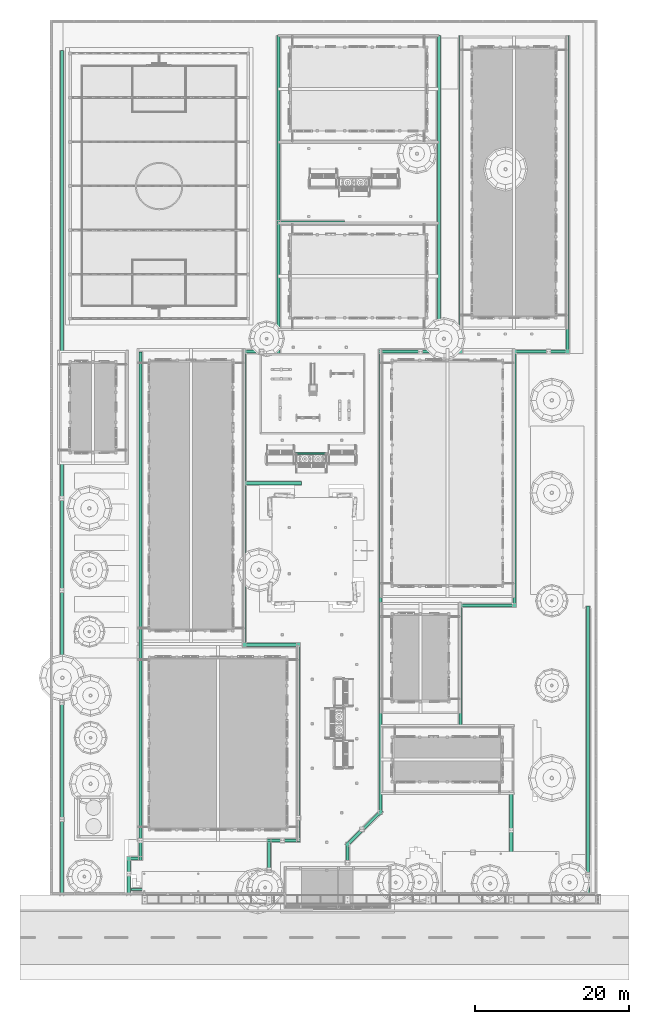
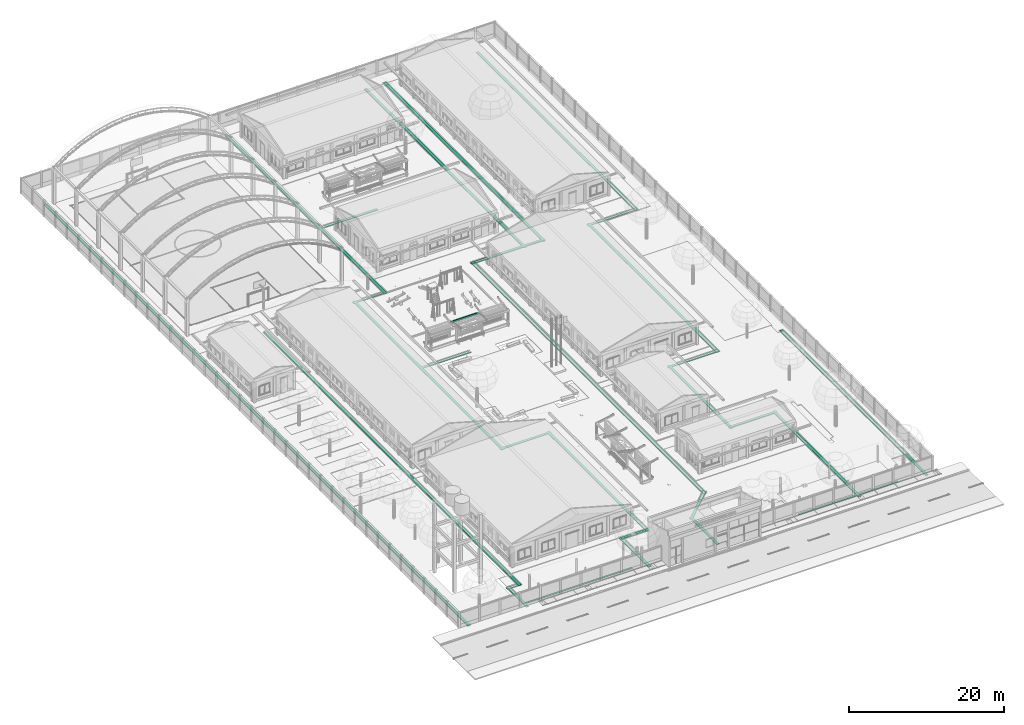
# One storey, part 106 of 177: 2 pipe segments.
"""IFC4 building model written with IfcOpenShell, lengths in metres."""

from ifc_helpers import new_model, si_unit, origin, origin_with_axes, place, context, subcontext, project, spatial, triangles, element, save


model = new_model("IFC4")

# Units and contexts
model_context = context("Model", 3, precision=1e-05, world=origin_with_axes())
body_context = subcontext(model_context, "Body", "Model", "MODEL_VIEW")
ifc_project = project(units=[si_unit("LENGTHUNIT", "METRE"), si_unit("AREAUNIT", "SQUARE_METRE"), si_unit("VOLUMEUNIT", "CUBIC_METRE"), si_unit("PLANEANGLEUNIT", "RADIAN")], contexts=[model_context])

# Site, building, storey
site_placement = place(None, origin_with_axes())
site = spatial("IfcSite", under=ifc_project, at=site_placement, Name="Predio Los Mangos - Morales, San Martín", CompositionType="ELEMENT")
building_placement = place(site_placement, origin())
building = spatial("IfcBuilding", under=site, at=building_placement, Name="Hogar de Refugio Temporal", CompositionType="ELEMENT")
storey_placement = place(building_placement, origin())
storey = spatial("IfcBuildingStorey", under=building, at=storey_placement, Name="NIVEL 1 (NPT +0.00)", CompositionType="ELEMENT", Elevation=0.0)

# Pipe segments
pipe_segment_1_placement = place(storey_placement, origin())
element("IfcPipeSegment", 1, at=pipe_segment_1_placement, inside=storey, Name="oc01_canaleta", ObjectType="Canaleta", PredefinedType="GUTTER", context=body_context, shape_type="Tessellation", body=[
    triangles([(36.905, 75.18, 2.49), (32.695, 75.18, 2.49), (32.695, 75.0, 2.49), (36.905, 75.0, 2.49), (36.905, 75.18, 2.71), (32.695, 75.18, 2.71), (32.695, 75.0, 2.71), (36.905, 75.0, 2.71)], [[1, 4, 3], [1, 3, 2], [5, 6, 7], [5, 7, 8], [1, 2, 6], [1, 6, 5], [2, 3, 7], [2, 7, 6], [3, 4, 8], [3, 8, 7], [4, 1, 5], [4, 5, 8]]),
])
pipe_segment_2_placement = place(storey_placement, origin())
element("IfcPipeSegment", 2, at=pipe_segment_2_placement, inside=storey, Name="cunetas_fondo", ObjectType="Cuneta de concreto b=0.40", PredefinedType="GUTTER", context=body_context, shape_type="Tessellation", body=[
    triangles([(70.499, 55.35, -0.02), (70.499, 17.54, -0.02), (70.899, 17.54, -0.02), (70.899, 55.35, -0.02), (70.499, 55.35, 0.062), (70.499, 17.54, 0.062), (70.899, 17.54, 0.062), (70.899, 55.35, 0.062), (67.855, 129.32, -0.02), (67.855, 88.022, -0.02), (68.255, 88.022, -0.02), (68.255, 129.32, -0.02), (67.855, 129.32, 0.062), (67.855, 88.022, 0.062), (68.255, 88.022, 0.062), (68.255, 129.32, 0.062), (68.355, 88.522, -0.02), (60.848, 88.522, -0.02), (60.848, 88.122, -0.02), (68.355, 88.122, -0.02), (68.355, 88.522, 0.062), (60.848, 88.522, 0.062), (60.848, 88.122, 0.062), (68.355, 88.122, 0.062), (60.948, 88.622, -0.02), (60.948, 55.099, -0.02), (61.348, 55.099, -0.02), (61.348, 88.622, -0.02), (60.948, 88.622, 0.062), (60.948, 55.099, 0.062), (61.348, 55.099, 0.062), (61.348, 88.622, 0.062), (61.448, 55.599, -0.02), (53.838, 55.599, -0.02), (53.838, 55.199, -0.02), (61.448, 55.199, -0.02), (61.448, 55.599, 0.062), (53.838, 55.599, 0.062), (53.838, 55.199, 0.062), (61.448, 55.199, 0.062), (53.938, 55.699, -0.02), (53.938, 39.344, -0.02), (54.338, 39.344, -0.02), (54.338, 55.699, -0.02), (53.938, 55.699, 0.062), (53.938, 39.344, 0.062), (54.338, 39.344, 0.062), (54.338, 55.699, 0.062), (53.838, 39.444, -0.02), (61.037, 39.444, -0.02), (61.037, 39.844, -0.02), (53.838, 39.844, -0.02), (53.838, 39.444, 0.128), (61.037, 39.444, 0.128), (61.037, 39.844, 0.128), (53.838, 39.844, 0.128), (60.537, 39.944, -0.02), (60.537, 17.7, -0.02), (60.937, 17.7, -0.02), (60.937, 39.944, -0.02), (60.537, 39.944, 0.128), (60.537, 17.7, 0.128), (60.937, 17.7, 0.128), (60.937, 39.944, 0.128), (53.972, 129.32, -0.02), (53.972, 88.036, -0.02), (54.372, 88.036, -0.02), (54.372, 129.32, -0.02), (53.972, 129.32, 0.128), (53.972, 88.036, 0.128), (54.372, 88.036, 0.128), (54.372, 129.32, 0.128), (54.472, 88.536, -0.02), (51.1, 88.536, -0.02), (51.1, 88.136, -0.02), (54.472, 88.136, -0.02), (54.472, 88.536, 0.128), (51.1, 88.536, 0.128), (51.1, 88.136, 0.128), (54.472, 88.136, 0.128), (51.142, 129.32, -0.02), (51.142, 88.036, -0.02), (51.542, 88.036, -0.02), (51.542, 129.32, -0.02), (51.142, 129.32, 0.128), (51.142, 88.036, 0.128), (51.542, 88.036, 0.128), (51.542, 129.32, 0.128), (51.642, 88.536, -0.02), (43.455, 88.536, -0.02), (43.455, 88.136, -0.02), (51.642, 88.136, -0.02), (51.642, 88.536, 0.128), (43.455, 88.536, 0.128), (43.455, 88.136, 0.128), (51.642, 88.136, 0.128), (43.555, 88.636, -0.02), (43.555, 28.3, -0.02), (43.955, 28.3, -0.02), (43.955, 88.636, -0.02), (43.555, 88.636, 0.062), (43.555, 28.3, 0.062), (43.955, 28.3, 0.062), (43.955, 88.636, 0.062), (43.8274, 28.9532, -0.02), (39.1601, 24.331, -0.02), (39.4416, 24.0468, -0.02), (44.1089, 28.669, -0.02), (43.8274, 28.9532, 0.062), (39.1601, 24.331, 0.062), (39.4416, 24.0468, 0.062), (44.1089, 28.669, 0.062), (39.314, 24.7, -0.02), (39.314, 17.54, -0.02), (39.714, 17.54, -0.02), (39.714, 24.7, -0.02), (39.314, 24.7, 0.062), (39.314, 17.54, 0.062), (39.714, 17.54, 0.062), (39.714, 24.7, 0.062), (30.334, 129.32, -0.02), (30.334, 88.036, -0.02), (30.734, 88.036, -0.02), (30.734, 129.32, -0.02), (30.334, 129.32, 0.128), (30.334, 88.036, 0.128), (30.734, 88.036, 0.128), (30.734, 129.32, 0.128), (30.834, 88.536, -0.02), (25.809, 88.536, -0.02), (25.809, 88.136, -0.02), (30.834, 88.136, -0.02), (30.834, 88.536, 0.062), (25.809, 88.536, 0.062), (25.809, 88.136, 0.062), (30.834, 88.136, 0.062), (25.909, 88.636, -0.02), (25.909, 49.993, -0.02), (26.309, 49.993, -0.02), (26.309, 88.636, -0.02), (25.909, 88.636, 0.062), (25.909, 49.993, 0.062), (26.309, 49.993, 0.062), (26.309, 88.636, 0.062), (25.809, 50.093, -0.02), (33.42, 50.093, -0.02), (33.42, 50.493, -0.02), (25.809, 50.493, -0.02), (25.809, 50.093, 0.062), (33.42, 50.093, 0.062), (33.42, 50.493, 0.062), (25.809, 50.493, 0.062), (32.92, 50.593, -0.02), (32.92, 24.617, -0.02), (33.32, 24.617, -0.02), (33.32, 50.593, -0.02), (32.92, 50.593, 0.062), (32.92, 24.617, 0.062), (33.32, 24.617, 0.062), (33.32, 50.593, 0.062), (33.42, 25.117, -0.02), (29.029, 25.117, -0.02), (29.029, 24.717, -0.02), (33.42, 24.717, -0.02), (33.42, 25.117, 0.128), (29.029, 25.117, 0.128), (29.029, 24.717, 0.128), (33.42, 24.717, 0.128), (29.129, 25.217, -0.02), (29.129, 17.54, -0.02), (29.529, 17.54, -0.02), (29.529, 25.217, -0.02), (29.129, 25.217, 0.062), (29.129, 17.54, 0.062), (29.529, 17.54, 0.062), (29.529, 25.217, 0.062), (39.1, 105.289, -0.02), (30.3, 105.289, -0.02), (30.3, 104.889, -0.02), (39.1, 104.889, -0.02), (39.1, 105.289, 0.062), (30.3, 105.289, 0.062), (30.3, 104.889, 0.062), (39.1, 104.889, 0.062), (33.5, 71.446, -0.02), (25.9, 71.446, -0.02), (25.9, 71.046, -0.02), (33.5, 71.046, -0.02), (33.5, 71.446, 0.062), (25.9, 71.446, 0.062), (25.9, 71.046, 0.062), (33.5, 71.046, 0.062), (12.439, 88.3, -0.02), (12.439, 22.28, -0.02), (12.839, 22.28, -0.02), (12.839, 88.3, -0.02), (12.439, 88.3, 0.128), (12.439, 22.28, 0.128), (12.839, 22.28, 0.128), (12.839, 88.3, 0.128), (12.939, 22.78, -0.02), (10.812, 22.78, -0.02), (10.812, 22.38, -0.02), (12.939, 22.38, -0.02), (12.939, 22.78, 0.062), (10.812, 22.78, 0.062), (10.812, 22.38, 0.062), (12.939, 22.38, 0.062), (10.912, 22.88, -0.02), (10.912, 17.7, -0.02), (11.312, 17.7, -0.02), (11.312, 22.88, -0.02), (10.912, 22.88, 0.062), (10.912, 17.7, 0.062), (11.312, 17.7, 0.062), (11.312, 22.88, 0.062), (2.23, 127.4, -0.02), (2.23, 17.7, -0.02), (2.63, 17.7, -0.02), (2.63, 127.4, -0.02), (2.23, 127.4, 0.128), (2.23, 17.7, 0.128), (2.63, 17.7, 0.128), (2.63, 127.4, 0.128), (11.413, 18.401, -0.02), (27.239, 18.401, -0.02), (27.239, 18.701, -0.02), (11.413, 18.701, -0.02), (11.413, 18.401, 0.062), (27.239, 18.401, 0.062), (27.239, 18.701, 0.062), (11.413, 18.701, 0.062), (51.903, 18.101, -0.02), (60.435, 18.101, -0.02), (60.435, 18.401, -0.02), (51.903, 18.401, -0.02), (51.903, 18.101, 0.062), (60.435, 18.101, 0.062), (60.435, 18.401, 0.062), (51.903, 18.401, 0.062), (61.035, 18.101, -0.02), (66.759, 18.101, -0.02), (66.759, 18.401, -0.02), (61.035, 18.401, -0.02), (61.035, 18.101, 0.062), (66.759, 18.101, 0.062), (66.759, 18.401, 0.062), (61.035, 18.401, 0.062)], [[1, 4, 3], [1, 3, 2], [5, 6, 7], [5, 7, 8], [1, 2, 6], [1, 6, 5], [2, 3, 7], [2, 7, 6], [3, 4, 8], [3, 8, 7], [4, 1, 5], [4, 5, 8], [9, 12, 11], [9, 11, 10], [13, 14, 15], [13, 15, 16], [9, 10, 14], [9, 14, 13], [10, 11, 15], [10, 15, 14], [11, 12, 16], [11, 16, 15], [12, 9, 13], [12, 13, 16], [17, 20, 19], [17, 19, 18], [21, 22, 23], [21, 23, 24], [17, 18, 22], [17, 22, 21], [18, 19, 23], [18, 23, 22], [19, 20, 24], [19, 24, 23], [20, 17, 21], [20, 21, 24], [25, 28, 27], [25, 27, 26], [29, 30, 31], [29, 31, 32], [25, 26, 30], [25, 30, 29], [26, 27, 31], [26, 31, 30], [27, 28, 32], [27, 32, 31], [28, 25, 29], [28, 29, 32], [33, 36, 35], [33, 35, 34], [37, 38, 39], [37, 39, 40], [33, 34, 38], [33, 38, 37], [34, 35, 39], [34, 39, 38], [35, 36, 40], [35, 40, 39], [36, 33, 37], [36, 37, 40], [41, 44, 43], [41, 43, 42], [45, 46, 47], [45, 47, 48], [41, 42, 46], [41, 46, 45], [42, 43, 47], [42, 47, 46], [43, 44, 48], [43, 48, 47], [44, 41, 45], [44, 45, 48], [49, 52, 51], [49, 51, 50], [53, 54, 55], [53, 55, 56], [49, 50, 54], [49, 54, 53], [50, 51, 55], [50, 55, 54], [51, 52, 56], [51, 56, 55], [52, 49, 53], [52, 53, 56], [57, 60, 59], [57, 59, 58], [61, 62, 63], [61, 63, 64], [57, 58, 62], [57, 62, 61], [58, 59, 63], [58, 63, 62], [59, 60, 64], [59, 64, 63], [60, 57, 61], [60, 61, 64], [65, 68, 67], [65, 67, 66], [69, 70, 71], [69, 71, 72], [65, 66, 70], [65, 70, 69], [66, 67, 71], [66, 71, 70], [67, 68, 72], [67, 72, 71], [68, 65, 69], [68, 69, 72], [73, 76, 75], [73, 75, 74], [77, 78, 79], [77, 79, 80], [73, 74, 78], [73, 78, 77], [74, 75, 79], [74, 79, 78], [75, 76, 80], [75, 80, 79], [76, 73, 77], [76, 77, 80], [81, 84, 83], [81, 83, 82], [85, 86, 87], [85, 87, 88], [81, 82, 86], [81, 86, 85], [82, 83, 87], [82, 87, 86], [83, 84, 88], [83, 88, 87], [84, 81, 85], [84, 85, 88], [89, 92, 91], [89, 91, 90], [93, 94, 95], [93, 95, 96], [89, 90, 94], [89, 94, 93], [90, 91, 95], [90, 95, 94], [91, 92, 96], [91, 96, 95], [92, 89, 93], [92, 93, 96], [97, 100, 99], [97, 99, 98], [101, 102, 103], [101, 103, 104], [97, 98, 102], [97, 102, 101], [98, 99, 103], [98, 103, 102], [99, 100, 104], [99, 104, 103], [100, 97, 101], [100, 101, 104], [105, 108, 107], [105, 107, 106], [109, 110, 111], [109, 111, 112], [105, 106, 110], [105, 110, 109], [106, 107, 111], [106, 111, 110], [107, 108, 112], [107, 112, 111], [108, 105, 109], [108, 109, 112], [113, 116, 115], [113, 115, 114], [117, 118, 119], [117, 119, 120], [113, 114, 118], [113, 118, 117], [114, 115, 119], [114, 119, 118], [115, 116, 120], [115, 120, 119], [116, 113, 117], [116, 117, 120], [121, 124, 123], [121, 123, 122], [125, 126, 127], [125, 127, 128], [121, 122, 126], [121, 126, 125], [122, 123, 127], [122, 127, 126], [123, 124, 128], [123, 128, 127], [124, 121, 125], [124, 125, 128], [129, 132, 131], [129, 131, 130], [133, 134, 135], [133, 135, 136], [129, 130, 134], [129, 134, 133], [130, 131, 135], [130, 135, 134], [131, 132, 136], [131, 136, 135], [132, 129, 133], [132, 133, 136], [137, 140, 139], [137, 139, 138], [141, 142, 143], [141, 143, 144], [137, 138, 142], [137, 142, 141], [138, 139, 143], [138, 143, 142], [139, 140, 144], [139, 144, 143], [140, 137, 141], [140, 141, 144], [145, 148, 147], [145, 147, 146], [149, 150, 151], [149, 151, 152], [145, 146, 150], [145, 150, 149], [146, 147, 151], [146, 151, 150], [147, 148, 152], [147, 152, 151], [148, 145, 149], [148, 149, 152], [153, 156, 155], [153, 155, 154], [157, 158, 159], [157, 159, 160], [153, 154, 158], [153, 158, 157], [154, 155, 159], [154, 159, 158], [155, 156, 160], [155, 160, 159], [156, 153, 157], [156, 157, 160], [161, 164, 163], [161, 163, 162], [165, 166, 167], [165, 167, 168], [161, 162, 166], [161, 166, 165], [162, 163, 167], [162, 167, 166], [163, 164, 168], [163, 168, 167], [164, 161, 165], [164, 165, 168], [169, 172, 171], [169, 171, 170], [173, 174, 175], [173, 175, 176], [169, 170, 174], [169, 174, 173], [170, 171, 175], [170, 175, 174], [171, 172, 176], [171, 176, 175], [172, 169, 173], [172, 173, 176], [177, 180, 179], [177, 179, 178], [181, 182, 183], [181, 183, 184], [177, 178, 182], [177, 182, 181], [178, 179, 183], [178, 183, 182], [179, 180, 184], [179, 184, 183], [180, 177, 181], [180, 181, 184], [185, 188, 187], [185, 187, 186], [189, 190, 191], [189, 191, 192], [185, 186, 190], [185, 190, 189], [186, 187, 191], [186, 191, 190], [187, 188, 192], [187, 192, 191], [188, 185, 189], [188, 189, 192], [193, 196, 195], [193, 195, 194], [197, 198, 199], [197, 199, 200], [193, 194, 198], [193, 198, 197], [194, 195, 199], [194, 199, 198], [195, 196, 200], [195, 200, 199], [196, 193, 197], [196, 197, 200], [201, 204, 203], [201, 203, 202], [205, 206, 207], [205, 207, 208], [201, 202, 206], [201, 206, 205], [202, 203, 207], [202, 207, 206], [203, 204, 208], [203, 208, 207], [204, 201, 205], [204, 205, 208], [209, 212, 211], [209, 211, 210], [213, 214, 215], [213, 215, 216], [209, 210, 214], [209, 214, 213], [210, 211, 215], [210, 215, 214], [211, 212, 216], [211, 216, 215], [212, 209, 213], [212, 213, 216], [217, 220, 219], [217, 219, 218], [221, 222, 223], [221, 223, 224], [217, 218, 222], [217, 222, 221], [218, 219, 223], [218, 223, 222], [219, 220, 224], [219, 224, 223], [220, 217, 221], [220, 221, 224], [225, 228, 227], [225, 227, 226], [229, 230, 231], [229, 231, 232], [225, 226, 230], [225, 230, 229], [226, 227, 231], [226, 231, 230], [227, 228, 232], [227, 232, 231], [228, 225, 229], [228, 229, 232], [233, 236, 235], [233, 235, 234], [237, 238, 239], [237, 239, 240], [233, 234, 238], [233, 238, 237], [234, 235, 239], [234, 239, 238], [235, 236, 240], [235, 240, 239], [236, 233, 237], [236, 237, 240], [241, 244, 243], [241, 243, 242], [245, 246, 247], [245, 247, 248], [241, 242, 246], [241, 246, 245], [242, 243, 247], [242, 247, 246], [243, 244, 248], [243, 248, 247], [244, 241, 245], [244, 245, 248]]),
])

save(model, "model.ifc")
